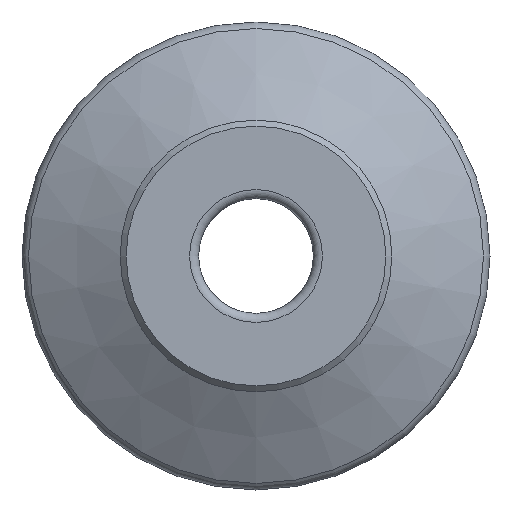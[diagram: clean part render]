
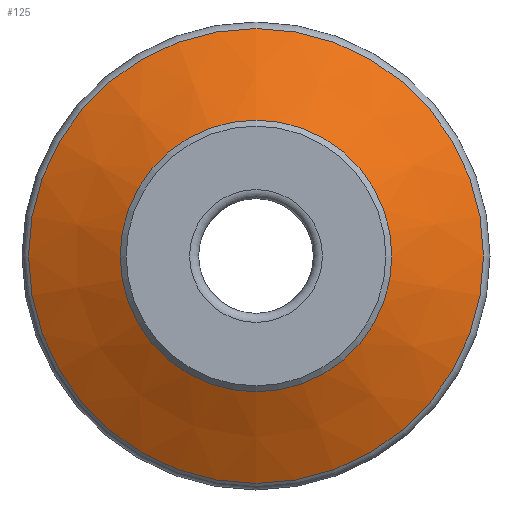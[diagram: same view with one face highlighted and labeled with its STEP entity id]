
A CAD part, left-side view. The second image highlights one B-rep face of the part: STEP entity #125.
In plain terms, the highlighted conical face has half-angle 61.195 degrees and reference radius 7.534 mm.
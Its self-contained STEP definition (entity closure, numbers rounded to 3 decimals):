
#125 = ADVANCED_FACE( '', ( #286, #287 ), #288, .T. );
#286 = FACE_BOUND( '', #465, .T. );
#287 = FACE_OUTER_BOUND( '', #466, .T. );
#288 = CONICAL_SURFACE( '', #467, 7.534, 1.068 );
#465 = EDGE_LOOP( '', ( #696 ) );
#466 = EDGE_LOOP( '', ( #697 ) );
#467 = AXIS2_PLACEMENT_3D( '', #698, #699, #700 );
#696 = ORIENTED_EDGE( '', *, *, #847, .F. );
#697 = ORIENTED_EDGE( '', *, *, #783, .T. );
#698 = CARTESIAN_POINT( '', ( -1.032, 0., 0. ) );
#699 = DIRECTION( '', ( 1., 0., 0. ) );
#700 = DIRECTION( '', ( 0., 0., -1. ) );
#783 = EDGE_CURVE( '', #871, #871, #872, .T. );
#847 = EDGE_CURVE( '', #971, #971, #972, .T. );
#871 = VERTEX_POINT( '', #1000 );
#872 = CIRCLE( '', #1001, 7.534 );
#971 = VERTEX_POINT( '', #1100 );
#972 = CIRCLE( '', #1101, 4.5 );
#1000 = CARTESIAN_POINT( '', ( -1.032, 0., 7.534 ) );
#1001 = AXIS2_PLACEMENT_3D( '', #1129, #1130, #1131 );
#1100 = CARTESIAN_POINT( '', ( -2.7, 0., 4.5 ) );
#1101 = AXIS2_PLACEMENT_3D( '', #1237, #1238, #1239 );
#1129 = CARTESIAN_POINT( '', ( -1.032, 0., 0. ) );
#1130 = DIRECTION( '', ( -1., 0., 0. ) );
#1131 = DIRECTION( '', ( 0., 0., 1. ) );
#1237 = CARTESIAN_POINT( '', ( -2.7, 0., 0. ) );
#1238 = DIRECTION( '', ( -1., 0., 0. ) );
#1239 = DIRECTION( '', ( 0., 0., 1. ) );
